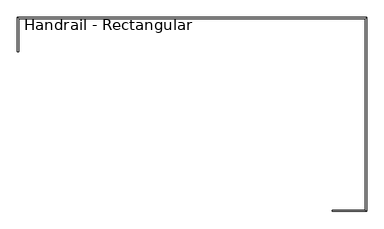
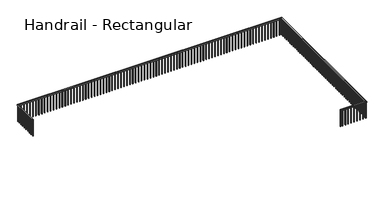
"""IFC4 building model written with IfcOpenShell, lengths in millimetres: railing geometry, Handrail - Rectangular."""

from ifc_helpers import new_model, si_unit, frame, origin, place, context, project, spatial, polyline, outline, extrude, faceted_brep, source, transform, mapped, element, save


def handrail_rectangular_d66f6947(model_context):
    return source(origin(), model_context, "Body", "SolidModel", [
        faceted_brep([(-11342.6589563, 10624.0316867, 3962.4), (-11393.4589563, 10624.0316867, 3962.4), (-11393.4589563, 10624.0316867, 3911.6), (-11342.6589563, 10624.0316867, 3911.6), (-11342.6589563, 11919.4316867, 3962.4), (-11393.4589563, 11970.2316867, 3962.4), (-11393.4589563, 11970.2316867, 3911.6), (-11342.6589563, 11919.4316867, 3911.6), (2271.7410437, 11919.4316867, 3962.4), (2322.5410437, 11970.2316867, 3962.4), (2322.5410437, 11970.2316867, 3911.6), (2271.7410437, 11919.4316867, 3911.6), (2271.7410437, 4401.0316867, 3962.4), (2322.5410437, 4350.2316867, 3962.4), (2322.5410437, 4350.2316867, 3911.6), (2271.7410437, 4401.0316867, 3911.6), (976.3410437, 4401.0316867, 3962.4), (976.3410437, 4401.0316867, 3911.6), (976.3410437, 4350.2316867, 3911.6), (976.3410437, 4350.2316867, 3962.4)], [[[0, 1, 2, 3]], [[1, 0, 4, 5]], [[2, 1, 5, 6]], [[3, 2, 6, 7]], [[0, 3, 7, 4]], [[5, 4, 8, 9]], [[6, 5, 9, 10]], [[7, 6, 10, 11]], [[4, 7, 11, 8]], [[9, 8, 12, 13]], [[10, 9, 13, 14]], [[11, 10, 14, 15]], [[8, 11, 15, 12]], [[16, 17, 18, 19]], [[13, 12, 16, 19]], [[14, 13, 19, 18]], [[15, 14, 18, 17]], [[12, 15, 17, 16]]]),
        extrude(outline(polyline([(1087.4660437, 4385.1566867), (1087.4660437, 4366.1066867), (1068.4160437, 4366.1066867), (1068.4160437, 4385.1566867), (1087.4660437, 4385.1566867)])), frame((0.0, 0.0, 3048.0), z_axis=(0.0, 0.0, 1.0), x_axis=(1.0, 0.0, 0.0)), (0.0, 0.0, 1.0), 863.6),
        extrude(outline(polyline([(1239.8660437, 4385.1566867), (1239.8660437, 4366.1066867), (1220.8160437, 4366.1066867), (1220.8160437, 4385.1566867), (1239.8660437, 4385.1566867)])), frame((0.0, 0.0, 3048.0), z_axis=(0.0, 0.0, 1.0), x_axis=(1.0, 0.0, 0.0)), (0.0, 0.0, 1.0), 863.6),
        extrude(outline(polyline([(1392.2660437, 4385.1566867), (1392.2660437, 4366.1066867), (1373.2160437, 4366.1066867), (1373.2160437, 4385.1566867), (1392.2660437, 4385.1566867)])), frame((0.0, 0.0, 3048.0), z_axis=(0.0, 0.0, 1.0), x_axis=(1.0, 0.0, 0.0)), (0.0, 0.0, 1.0), 863.6),
        extrude(outline(polyline([(1544.6660437, 4385.1566867), (1544.6660437, 4366.1066867), (1525.6160437, 4366.1066867), (1525.6160437, 4385.1566867), (1544.6660437, 4385.1566867)])), frame((0.0, 0.0, 3048.0), z_axis=(0.0, 0.0, 1.0), x_axis=(1.0, 0.0, 0.0)), (0.0, 0.0, 1.0), 863.6),
        extrude(outline(polyline([(1697.0660437, 4385.1566867), (1697.0660437, 4366.1066867), (1678.0160437, 4366.1066867), (1678.0160437, 4385.1566867), (1697.0660437, 4385.1566867)])), frame((0.0, 0.0, 3048.0), z_axis=(0.0, 0.0, 1.0), x_axis=(1.0, 0.0, 0.0)), (0.0, 0.0, 1.0), 863.6),
        extrude(outline(polyline([(1849.4660437, 4385.1566867), (1849.4660437, 4366.1066867), (1830.4160437, 4366.1066867), (1830.4160437, 4385.1566867), (1849.4660437, 4385.1566867)])), frame((0.0, 0.0, 3048.0), z_axis=(0.0, 0.0, 1.0), x_axis=(1.0, 0.0, 0.0)), (0.0, 0.0, 1.0), 863.6),
        extrude(outline(polyline([(2001.8660437, 4385.1566867), (2001.8660437, 4366.1066867), (1982.8160437, 4366.1066867), (1982.8160437, 4385.1566867), (2001.8660437, 4385.1566867)])), frame((0.0, 0.0, 3048.0), z_axis=(0.0, 0.0, 1.0), x_axis=(1.0, 0.0, 0.0)), (0.0, 0.0, 1.0), 863.6),
        extrude(outline(polyline([(2154.2660437, 4385.1566867), (2154.2660437, 4366.1066867), (2135.2160437, 4366.1066867), (2135.2160437, 4385.1566867), (2154.2660437, 4385.1566867)])), frame((0.0, 0.0, 3048.0), z_axis=(0.0, 0.0, 1.0), x_axis=(1.0, 0.0, 0.0)), (0.0, 0.0, 1.0), 863.6),
        extrude(outline(polyline([(2287.6160437, 4486.7566867), (2306.6660437, 4486.7566867), (2306.6660437, 4467.7066867), (2287.6160437, 4467.7066867), (2287.6160437, 4486.7566867)])), frame((0.0, 0.0, 3048.0), z_axis=(0.0, 0.0, 1.0), x_axis=(1.0, 0.0, 0.0)), (0.0, 0.0, 1.0), 863.6),
        extrude(outline(polyline([(2287.6160437, 4639.1566867), (2306.6660437, 4639.1566867), (2306.6660437, 4620.1066867), (2287.6160437, 4620.1066867), (2287.6160437, 4639.1566867)])), frame((0.0, 0.0, 3048.0), z_axis=(0.0, 0.0, 1.0), x_axis=(1.0, 0.0, 0.0)), (0.0, 0.0, 1.0), 863.6),
        extrude(outline(polyline([(2287.6160437, 4791.5566867), (2306.6660437, 4791.5566867), (2306.6660437, 4772.5066867), (2287.6160437, 4772.5066867), (2287.6160437, 4791.5566867)])), frame((0.0, 0.0, 3048.0), z_axis=(0.0, 0.0, 1.0), x_axis=(1.0, 0.0, 0.0)), (0.0, 0.0, 1.0), 863.6),
        extrude(outline(polyline([(2287.6160437, 4943.9566867), (2306.6660437, 4943.9566867), (2306.6660437, 4924.9066867), (2287.6160437, 4924.9066867), (2287.6160437, 4943.9566867)])), frame((0.0, 0.0, 3048.0), z_axis=(0.0, 0.0, 1.0), x_axis=(1.0, 0.0, 0.0)), (0.0, 0.0, 1.0), 863.6),
        extrude(outline(polyline([(2287.6160437, 5096.3566867), (2306.6660437, 5096.3566867), (2306.6660437, 5077.3066867), (2287.6160437, 5077.3066867), (2287.6160437, 5096.3566867)])), frame((0.0, 0.0, 3048.0), z_axis=(0.0, 0.0, 1.0), x_axis=(1.0, 0.0, 0.0)), (0.0, 0.0, 1.0), 863.6),
        extrude(outline(polyline([(2287.6160437, 5248.7566867), (2306.6660437, 5248.7566867), (2306.6660437, 5229.7066867), (2287.6160437, 5229.7066867), (2287.6160437, 5248.7566867)])), frame((0.0, 0.0, 3048.0), z_axis=(0.0, 0.0, 1.0), x_axis=(1.0, 0.0, 0.0)), (0.0, 0.0, 1.0), 863.6),
        extrude(outline(polyline([(2287.6160437, 5401.1566867), (2306.6660437, 5401.1566867), (2306.6660437, 5382.1066867), (2287.6160437, 5382.1066867), (2287.6160437, 5401.1566867)])), frame((0.0, 0.0, 3048.0), z_axis=(0.0, 0.0, 1.0), x_axis=(1.0, 0.0, 0.0)), (0.0, 0.0, 1.0), 863.6),
        extrude(outline(polyline([(2287.6160437, 5553.5566867), (2306.6660437, 5553.5566867), (2306.6660437, 5534.5066867), (2287.6160437, 5534.5066867), (2287.6160437, 5553.5566867)])), frame((0.0, 0.0, 3048.0), z_axis=(0.0, 0.0, 1.0), x_axis=(1.0, 0.0, 0.0)), (0.0, 0.0, 1.0), 863.6),
        extrude(outline(polyline([(2287.6160437, 5705.9566867), (2306.6660437, 5705.9566867), (2306.6660437, 5686.9066867), (2287.6160437, 5686.9066867), (2287.6160437, 5705.9566867)])), frame((0.0, 0.0, 3048.0), z_axis=(0.0, 0.0, 1.0), x_axis=(1.0, 0.0, 0.0)), (0.0, 0.0, 1.0), 863.6),
        extrude(outline(polyline([(2287.6160437, 5858.3566867), (2306.6660437, 5858.3566867), (2306.6660437, 5839.3066867), (2287.6160437, 5839.3066867), (2287.6160437, 5858.3566867)])), frame((0.0, 0.0, 3048.0), z_axis=(0.0, 0.0, 1.0), x_axis=(1.0, 0.0, 0.0)), (0.0, 0.0, 1.0), 863.6),
        extrude(outline(polyline([(2287.6160437, 6010.7566867), (2306.6660437, 6010.7566867), (2306.6660437, 5991.7066867), (2287.6160437, 5991.7066867), (2287.6160437, 6010.7566867)])), frame((0.0, 0.0, 3048.0), z_axis=(0.0, 0.0, 1.0), x_axis=(1.0, 0.0, 0.0)), (0.0, 0.0, 1.0), 863.6),
        extrude(outline(polyline([(2287.6160437, 6163.1566867), (2306.6660437, 6163.1566867), (2306.6660437, 6144.1066867), (2287.6160437, 6144.1066867), (2287.6160437, 6163.1566867)])), frame((0.0, 0.0, 3048.0), z_axis=(0.0, 0.0, 1.0), x_axis=(1.0, 0.0, 0.0)), (0.0, 0.0, 1.0), 863.6),
        extrude(outline(polyline([(2287.6160437, 6315.5566867), (2306.6660437, 6315.5566867), (2306.6660437, 6296.5066867), (2287.6160437, 6296.5066867), (2287.6160437, 6315.5566867)])), frame((0.0, 0.0, 3048.0), z_axis=(0.0, 0.0, 1.0), x_axis=(1.0, 0.0, 0.0)), (0.0, 0.0, 1.0), 863.6),
        extrude(outline(polyline([(2287.6160437, 6467.9566867), (2306.6660437, 6467.9566867), (2306.6660437, 6448.9066867), (2287.6160437, 6448.9066867), (2287.6160437, 6467.9566867)])), frame((0.0, 0.0, 3048.0), z_axis=(0.0, 0.0, 1.0), x_axis=(1.0, 0.0, 0.0)), (0.0, 0.0, 1.0), 863.6),
        extrude(outline(polyline([(2287.6160437, 6620.3566867), (2306.6660437, 6620.3566867), (2306.6660437, 6601.3066867), (2287.6160437, 6601.3066867), (2287.6160437, 6620.3566867)])), frame((0.0, 0.0, 3048.0), z_axis=(0.0, 0.0, 1.0), x_axis=(1.0, 0.0, 0.0)), (0.0, 0.0, 1.0), 863.6),
        extrude(outline(polyline([(2287.6160437, 6772.7566867), (2306.6660437, 6772.7566867), (2306.6660437, 6753.7066867), (2287.6160437, 6753.7066867), (2287.6160437, 6772.7566867)])), frame((0.0, 0.0, 3048.0), z_axis=(0.0, 0.0, 1.0), x_axis=(1.0, 0.0, 0.0)), (0.0, 0.0, 1.0), 863.6),
        extrude(outline(polyline([(2287.6160437, 6925.1566867), (2306.6660437, 6925.1566867), (2306.6660437, 6906.1066867), (2287.6160437, 6906.1066867), (2287.6160437, 6925.1566867)])), frame((0.0, 0.0, 3048.0), z_axis=(0.0, 0.0, 1.0), x_axis=(1.0, 0.0, 0.0)), (0.0, 0.0, 1.0), 863.6),
        extrude(outline(polyline([(2287.6160437, 7077.5566867), (2306.6660437, 7077.5566867), (2306.6660437, 7058.5066867), (2287.6160437, 7058.5066867), (2287.6160437, 7077.5566867)])), frame((0.0, 0.0, 3048.0), z_axis=(0.0, 0.0, 1.0), x_axis=(1.0, 0.0, 0.0)), (0.0, 0.0, 1.0), 863.6),
        extrude(outline(polyline([(2287.6160437, 7229.9566867), (2306.6660437, 7229.9566867), (2306.6660437, 7210.9066867), (2287.6160437, 7210.9066867), (2287.6160437, 7229.9566867)])), frame((0.0, 0.0, 3048.0), z_axis=(0.0, 0.0, 1.0), x_axis=(1.0, 0.0, 0.0)), (0.0, 0.0, 1.0), 863.6),
        extrude(outline(polyline([(2287.6160437, 7382.3566867), (2306.6660437, 7382.3566867), (2306.6660437, 7363.3066867), (2287.6160437, 7363.3066867), (2287.6160437, 7382.3566867)])), frame((0.0, 0.0, 3048.0), z_axis=(0.0, 0.0, 1.0), x_axis=(1.0, 0.0, 0.0)), (0.0, 0.0, 1.0), 863.6),
        extrude(outline(polyline([(2287.6160437, 7534.7566867), (2306.6660437, 7534.7566867), (2306.6660437, 7515.7066867), (2287.6160437, 7515.7066867), (2287.6160437, 7534.7566867)])), frame((0.0, 0.0, 3048.0), z_axis=(0.0, 0.0, 1.0), x_axis=(1.0, 0.0, 0.0)), (0.0, 0.0, 1.0), 863.6),
        extrude(outline(polyline([(2287.6160437, 7687.1566867), (2306.6660437, 7687.1566867), (2306.6660437, 7668.1066867), (2287.6160437, 7668.1066867), (2287.6160437, 7687.1566867)])), frame((0.0, 0.0, 3048.0), z_axis=(0.0, 0.0, 1.0), x_axis=(1.0, 0.0, 0.0)), (0.0, 0.0, 1.0), 863.6),
        extrude(outline(polyline([(2287.6160437, 7839.5566867), (2306.6660437, 7839.5566867), (2306.6660437, 7820.5066867), (2287.6160437, 7820.5066867), (2287.6160437, 7839.5566867)])), frame((0.0, 0.0, 3048.0), z_axis=(0.0, 0.0, 1.0), x_axis=(1.0, 0.0, 0.0)), (0.0, 0.0, 1.0), 863.6),
        extrude(outline(polyline([(2287.6160437, 7991.9566867), (2306.6660437, 7991.9566867), (2306.6660437, 7972.9066867), (2287.6160437, 7972.9066867), (2287.6160437, 7991.9566867)])), frame((0.0, 0.0, 3048.0), z_axis=(0.0, 0.0, 1.0), x_axis=(1.0, 0.0, 0.0)), (0.0, 0.0, 1.0), 863.6),
        extrude(outline(polyline([(2287.6160437, 8144.3566867), (2306.6660437, 8144.3566867), (2306.6660437, 8125.3066867), (2287.6160437, 8125.3066867), (2287.6160437, 8144.3566867)])), frame((0.0, 0.0, 3048.0), z_axis=(0.0, 0.0, 1.0), x_axis=(1.0, 0.0, 0.0)), (0.0, 0.0, 1.0), 863.6),
        extrude(outline(polyline([(2287.6160437, 8296.7566867), (2306.6660437, 8296.7566867), (2306.6660437, 8277.7066867), (2287.6160437, 8277.7066867), (2287.6160437, 8296.7566867)])), frame((0.0, 0.0, 3048.0), z_axis=(0.0, 0.0, 1.0), x_axis=(1.0, 0.0, 0.0)), (0.0, 0.0, 1.0), 863.6),
        extrude(outline(polyline([(2287.6160437, 8449.1566867), (2306.6660437, 8449.1566867), (2306.6660437, 8430.1066867), (2287.6160437, 8430.1066867), (2287.6160437, 8449.1566867)])), frame((0.0, 0.0, 3048.0), z_axis=(0.0, 0.0, 1.0), x_axis=(1.0, 0.0, 0.0)), (0.0, 0.0, 1.0), 863.6),
        extrude(outline(polyline([(2287.6160437, 8601.5566867), (2306.6660437, 8601.5566867), (2306.6660437, 8582.5066867), (2287.6160437, 8582.5066867), (2287.6160437, 8601.5566867)])), frame((0.0, 0.0, 3048.0), z_axis=(0.0, 0.0, 1.0), x_axis=(1.0, 0.0, 0.0)), (0.0, 0.0, 1.0), 863.6),
        extrude(outline(polyline([(2287.6160437, 8753.9566867), (2306.6660437, 8753.9566867), (2306.6660437, 8734.9066867), (2287.6160437, 8734.9066867), (2287.6160437, 8753.9566867)])), frame((0.0, 0.0, 3048.0), z_axis=(0.0, 0.0, 1.0), x_axis=(1.0, 0.0, 0.0)), (0.0, 0.0, 1.0), 863.6),
        extrude(outline(polyline([(2287.6160437, 8906.3566867), (2306.6660437, 8906.3566867), (2306.6660437, 8887.3066867), (2287.6160437, 8887.3066867), (2287.6160437, 8906.3566867)])), frame((0.0, 0.0, 3048.0), z_axis=(0.0, 0.0, 1.0), x_axis=(1.0, 0.0, 0.0)), (0.0, 0.0, 1.0), 863.6),
        extrude(outline(polyline([(2287.6160437, 9058.7566867), (2306.6660437, 9058.7566867), (2306.6660437, 9039.7066867), (2287.6160437, 9039.7066867), (2287.6160437, 9058.7566867)])), frame((0.0, 0.0, 3048.0), z_axis=(0.0, 0.0, 1.0), x_axis=(1.0, 0.0, 0.0)), (0.0, 0.0, 1.0), 863.6),
        extrude(outline(polyline([(2287.6160437, 9211.1566867), (2306.6660437, 9211.1566867), (2306.6660437, 9192.1066867), (2287.6160437, 9192.1066867), (2287.6160437, 9211.1566867)])), frame((0.0, 0.0, 3048.0), z_axis=(0.0, 0.0, 1.0), x_axis=(1.0, 0.0, 0.0)), (0.0, 0.0, 1.0), 863.6),
        extrude(outline(polyline([(2287.6160437, 9363.5566867), (2306.6660437, 9363.5566867), (2306.6660437, 9344.5066867), (2287.6160437, 9344.5066867), (2287.6160437, 9363.5566867)])), frame((0.0, 0.0, 3048.0), z_axis=(0.0, 0.0, 1.0), x_axis=(1.0, 0.0, 0.0)), (0.0, 0.0, 1.0), 863.6),
        extrude(outline(polyline([(2287.6160437, 9515.9566867), (2306.6660437, 9515.9566867), (2306.6660437, 9496.9066867), (2287.6160437, 9496.9066867), (2287.6160437, 9515.9566867)])), frame((0.0, 0.0, 3048.0), z_axis=(0.0, 0.0, 1.0), x_axis=(1.0, 0.0, 0.0)), (0.0, 0.0, 1.0), 863.6),
        extrude(outline(polyline([(2287.6160437, 9668.3566867), (2306.6660437, 9668.3566867), (2306.6660437, 9649.3066867), (2287.6160437, 9649.3066867), (2287.6160437, 9668.3566867)])), frame((0.0, 0.0, 3048.0), z_axis=(0.0, 0.0, 1.0), x_axis=(1.0, 0.0, 0.0)), (0.0, 0.0, 1.0), 863.6),
        extrude(outline(polyline([(2287.6160437, 9820.7566867), (2306.6660437, 9820.7566867), (2306.6660437, 9801.7066867), (2287.6160437, 9801.7066867), (2287.6160437, 9820.7566867)])), frame((0.0, 0.0, 3048.0), z_axis=(0.0, 0.0, 1.0), x_axis=(1.0, 0.0, 0.0)), (0.0, 0.0, 1.0), 863.6),
        extrude(outline(polyline([(2287.6160437, 9973.1566867), (2306.6660437, 9973.1566867), (2306.6660437, 9954.1066867), (2287.6160437, 9954.1066867), (2287.6160437, 9973.1566867)])), frame((0.0, 0.0, 3048.0), z_axis=(0.0, 0.0, 1.0), x_axis=(1.0, 0.0, 0.0)), (0.0, 0.0, 1.0), 863.6),
        extrude(outline(polyline([(2287.6160437, 10125.5566867), (2306.6660437, 10125.5566867), (2306.6660437, 10106.5066867), (2287.6160437, 10106.5066867), (2287.6160437, 10125.5566867)])), frame((0.0, 0.0, 3048.0), z_axis=(0.0, 0.0, 1.0), x_axis=(1.0, 0.0, 0.0)), (0.0, 0.0, 1.0), 863.6),
        extrude(outline(polyline([(2287.6160437, 10277.9566867), (2306.6660437, 10277.9566867), (2306.6660437, 10258.9066867), (2287.6160437, 10258.9066867), (2287.6160437, 10277.9566867)])), frame((0.0, 0.0, 3048.0), z_axis=(0.0, 0.0, 1.0), x_axis=(1.0, 0.0, 0.0)), (0.0, 0.0, 1.0), 863.6),
        extrude(outline(polyline([(2287.6160437, 10430.3566867), (2306.6660437, 10430.3566867), (2306.6660437, 10411.3066867), (2287.6160437, 10411.3066867), (2287.6160437, 10430.3566867)])), frame((0.0, 0.0, 3048.0), z_axis=(0.0, 0.0, 1.0), x_axis=(1.0, 0.0, 0.0)), (0.0, 0.0, 1.0), 863.6),
        extrude(outline(polyline([(2287.6160437, 10582.7566867), (2306.6660437, 10582.7566867), (2306.6660437, 10563.7066867), (2287.6160437, 10563.7066867), (2287.6160437, 10582.7566867)])), frame((0.0, 0.0, 3048.0), z_axis=(0.0, 0.0, 1.0), x_axis=(1.0, 0.0, 0.0)), (0.0, 0.0, 1.0), 863.6),
        extrude(outline(polyline([(2287.6160437, 10735.1566867), (2306.6660437, 10735.1566867), (2306.6660437, 10716.1066867), (2287.6160437, 10716.1066867), (2287.6160437, 10735.1566867)])), frame((0.0, 0.0, 3048.0), z_axis=(0.0, 0.0, 1.0), x_axis=(1.0, 0.0, 0.0)), (0.0, 0.0, 1.0), 863.6),
        extrude(outline(polyline([(2287.6160437, 10887.5566867), (2306.6660437, 10887.5566867), (2306.6660437, 10868.5066867), (2287.6160437, 10868.5066867), (2287.6160437, 10887.5566867)])), frame((0.0, 0.0, 3048.0), z_axis=(0.0, 0.0, 1.0), x_axis=(1.0, 0.0, 0.0)), (0.0, 0.0, 1.0), 863.6),
        extrude(outline(polyline([(2287.6160437, 11039.9566867), (2306.6660437, 11039.9566867), (2306.6660437, 11020.9066867), (2287.6160437, 11020.9066867), (2287.6160437, 11039.9566867)])), frame((0.0, 0.0, 3048.0), z_axis=(0.0, 0.0, 1.0), x_axis=(1.0, 0.0, 0.0)), (0.0, 0.0, 1.0), 863.6),
        extrude(outline(polyline([(2287.6160437, 11192.3566867), (2306.6660437, 11192.3566867), (2306.6660437, 11173.3066867), (2287.6160437, 11173.3066867), (2287.6160437, 11192.3566867)])), frame((0.0, 0.0, 3048.0), z_axis=(0.0, 0.0, 1.0), x_axis=(1.0, 0.0, 0.0)), (0.0, 0.0, 1.0), 863.6),
        extrude(outline(polyline([(2287.6160437, 11344.7566867), (2306.6660437, 11344.7566867), (2306.6660437, 11325.7066867), (2287.6160437, 11325.7066867), (2287.6160437, 11344.7566867)])), frame((0.0, 0.0, 3048.0), z_axis=(0.0, 0.0, 1.0), x_axis=(1.0, 0.0, 0.0)), (0.0, 0.0, 1.0), 863.6),
        extrude(outline(polyline([(2287.6160437, 11497.1566867), (2306.6660437, 11497.1566867), (2306.6660437, 11478.1066867), (2287.6160437, 11478.1066867), (2287.6160437, 11497.1566867)])), frame((0.0, 0.0, 3048.0), z_axis=(0.0, 0.0, 1.0), x_axis=(1.0, 0.0, 0.0)), (0.0, 0.0, 1.0), 863.6),
        extrude(outline(polyline([(2287.6160437, 11649.5566867), (2306.6660437, 11649.5566867), (2306.6660437, 11630.5066867), (2287.6160437, 11630.5066867), (2287.6160437, 11649.5566867)])), frame((0.0, 0.0, 3048.0), z_axis=(0.0, 0.0, 1.0), x_axis=(1.0, 0.0, 0.0)), (0.0, 0.0, 1.0), 863.6),
        extrude(outline(polyline([(2287.6160437, 11801.9566867), (2306.6660437, 11801.9566867), (2306.6660437, 11782.9066867), (2287.6160437, 11782.9066867), (2287.6160437, 11801.9566867)])), frame((0.0, 0.0, 3048.0), z_axis=(0.0, 0.0, 1.0), x_axis=(1.0, 0.0, 0.0)), (0.0, 0.0, 1.0), 863.6),
        extrude(outline(polyline([(2186.0160437, 11935.3066867), (2186.0160437, 11954.3566867), (2205.0660437, 11954.3566867), (2205.0660437, 11935.3066867), (2186.0160437, 11935.3066867)])), frame((0.0, 0.0, 3048.0), z_axis=(0.0, 0.0, 1.0), x_axis=(1.0, 0.0, 0.0)), (0.0, 0.0, 1.0), 863.6),
        extrude(outline(polyline([(2033.6160437, 11935.3066867), (2033.6160437, 11954.3566867), (2052.6660437, 11954.3566867), (2052.6660437, 11935.3066867), (2033.6160437, 11935.3066867)])), frame((0.0, 0.0, 3048.0), z_axis=(0.0, 0.0, 1.0), x_axis=(1.0, 0.0, 0.0)), (0.0, 0.0, 1.0), 863.6),
        extrude(outline(polyline([(1881.2160437, 11935.3066867), (1881.2160437, 11954.3566867), (1900.2660437, 11954.3566867), (1900.2660437, 11935.3066867), (1881.2160437, 11935.3066867)])), frame((0.0, 0.0, 3048.0), z_axis=(0.0, 0.0, 1.0), x_axis=(1.0, 0.0, 0.0)), (0.0, 0.0, 1.0), 863.6),
        extrude(outline(polyline([(1728.8160437, 11935.3066867), (1728.8160437, 11954.3566867), (1747.8660437, 11954.3566867), (1747.8660437, 11935.3066867), (1728.8160437, 11935.3066867)])), frame((0.0, 0.0, 3048.0), z_axis=(0.0, 0.0, 1.0), x_axis=(1.0, 0.0, 0.0)), (0.0, 0.0, 1.0), 863.6),
        extrude(outline(polyline([(1576.4160437, 11935.3066867), (1576.4160437, 11954.3566867), (1595.4660437, 11954.3566867), (1595.4660437, 11935.3066867), (1576.4160437, 11935.3066867)])), frame((0.0, 0.0, 3048.0), z_axis=(0.0, 0.0, 1.0), x_axis=(1.0, 0.0, 0.0)), (0.0, 0.0, 1.0), 863.6),
        extrude(outline(polyline([(1424.0160437, 11935.3066867), (1424.0160437, 11954.3566867), (1443.0660437, 11954.3566867), (1443.0660437, 11935.3066867), (1424.0160437, 11935.3066867)])), frame((0.0, 0.0, 3048.0), z_axis=(0.0, 0.0, 1.0), x_axis=(1.0, 0.0, 0.0)), (0.0, 0.0, 1.0), 863.6),
        extrude(outline(polyline([(1271.6160437, 11935.3066867), (1271.6160437, 11954.3566867), (1290.6660437, 11954.3566867), (1290.6660437, 11935.3066867), (1271.6160437, 11935.3066867)])), frame((0.0, 0.0, 3048.0), z_axis=(0.0, 0.0, 1.0), x_axis=(1.0, 0.0, 0.0)), (0.0, 0.0, 1.0), 863.6),
        extrude(outline(polyline([(1119.2160437, 11935.3066867), (1119.2160437, 11954.3566867), (1138.2660437, 11954.3566867), (1138.2660437, 11935.3066867), (1119.2160437, 11935.3066867)])), frame((0.0, 0.0, 3048.0), z_axis=(0.0, 0.0, 1.0), x_axis=(1.0, 0.0, 0.0)), (0.0, 0.0, 1.0), 863.6),
        extrude(outline(polyline([(966.8160437, 11935.3066867), (966.8160437, 11954.3566867), (985.8660437, 11954.3566867), (985.8660437, 11935.3066867), (966.8160437, 11935.3066867)])), frame((0.0, 0.0, 3048.0), z_axis=(0.0, 0.0, 1.0), x_axis=(1.0, 0.0, 0.0)), (0.0, 0.0, 1.0), 863.6),
        extrude(outline(polyline([(814.4160437, 11935.3066867), (814.4160437, 11954.3566867), (833.4660437, 11954.3566867), (833.4660437, 11935.3066867), (814.4160437, 11935.3066867)])), frame((0.0, 0.0, 3048.0), z_axis=(0.0, 0.0, 1.0), x_axis=(1.0, 0.0, 0.0)), (0.0, 0.0, 1.0), 863.6),
        extrude(outline(polyline([(662.0160437, 11935.3066867), (662.0160437, 11954.3566867), (681.0660437, 11954.3566867), (681.0660437, 11935.3066867), (662.0160437, 11935.3066867)])), frame((0.0, 0.0, 3048.0), z_axis=(0.0, 0.0, 1.0), x_axis=(1.0, 0.0, 0.0)), (0.0, 0.0, 1.0), 863.6),
        extrude(outline(polyline([(509.6160437, 11935.3066867), (509.6160437, 11954.3566867), (528.6660437, 11954.3566867), (528.6660437, 11935.3066867), (509.6160437, 11935.3066867)])), frame((0.0, 0.0, 3048.0), z_axis=(0.0, 0.0, 1.0), x_axis=(1.0, 0.0, 0.0)), (0.0, 0.0, 1.0), 863.6),
        extrude(outline(polyline([(357.2160437, 11935.3066867), (357.2160437, 11954.3566867), (376.2660437, 11954.3566867), (376.2660437, 11935.3066867), (357.2160437, 11935.3066867)])), frame((0.0, 0.0, 3048.0), z_axis=(0.0, 0.0, 1.0), x_axis=(1.0, 0.0, 0.0)), (0.0, 0.0, 1.0), 863.6),
        extrude(outline(polyline([(204.8160437, 11935.3066867), (204.8160437, 11954.3566867), (223.8660437, 11954.3566867), (223.8660437, 11935.3066867), (204.8160437, 11935.3066867)])), frame((0.0, 0.0, 3048.0), z_axis=(0.0, 0.0, 1.0), x_axis=(1.0, 0.0, 0.0)), (0.0, 0.0, 1.0), 863.6),
        extrude(outline(polyline([(52.4160437, 11935.3066867), (52.4160437, 11954.3566867), (71.4660437, 11954.3566867), (71.4660437, 11935.3066867), (52.4160437, 11935.3066867)])), frame((0.0, 0.0, 3048.0), z_axis=(0.0, 0.0, 1.0), x_axis=(1.0, 0.0, 0.0)), (0.0, 0.0, 1.0), 863.6),
        extrude(outline(polyline([(-99.9839563, 11935.3066867), (-99.9839563, 11954.3566867), (-80.9339563, 11954.3566867), (-80.9339563, 11935.3066867), (-99.9839563, 11935.3066867)])), frame((0.0, 0.0, 3048.0), z_axis=(0.0, 0.0, 1.0), x_axis=(1.0, 0.0, 0.0)), (0.0, 0.0, 1.0), 863.6),
        extrude(outline(polyline([(-252.3839563, 11935.3066867), (-252.3839563, 11954.3566867), (-233.3339563, 11954.3566867), (-233.3339563, 11935.3066867), (-252.3839563, 11935.3066867)])), frame((0.0, 0.0, 3048.0), z_axis=(0.0, 0.0, 1.0), x_axis=(1.0, 0.0, 0.0)), (0.0, 0.0, 1.0), 863.6),
        extrude(outline(polyline([(-404.7839563, 11935.3066867), (-404.7839563, 11954.3566867), (-385.7339563, 11954.3566867), (-385.7339563, 11935.3066867), (-404.7839563, 11935.3066867)])), frame((0.0, 0.0, 3048.0), z_axis=(0.0, 0.0, 1.0), x_axis=(1.0, 0.0, 0.0)), (0.0, 0.0, 1.0), 863.6),
        extrude(outline(polyline([(-557.1839563, 11935.3066867), (-557.1839563, 11954.3566867), (-538.1339563, 11954.3566867), (-538.1339563, 11935.3066867), (-557.1839563, 11935.3066867)])), frame((0.0, 0.0, 3048.0), z_axis=(0.0, 0.0, 1.0), x_axis=(1.0, 0.0, 0.0)), (0.0, 0.0, 1.0), 863.6),
        extrude(outline(polyline([(-709.5839563, 11935.3066867), (-709.5839563, 11954.3566867), (-690.5339563, 11954.3566867), (-690.5339563, 11935.3066867), (-709.5839563, 11935.3066867)])), frame((0.0, 0.0, 3048.0), z_axis=(0.0, 0.0, 1.0), x_axis=(1.0, 0.0, 0.0)), (0.0, 0.0, 1.0), 863.6),
        extrude(outline(polyline([(-861.9839563, 11935.3066867), (-861.9839563, 11954.3566867), (-842.9339563, 11954.3566867), (-842.9339563, 11935.3066867), (-861.9839563, 11935.3066867)])), frame((0.0, 0.0, 3048.0), z_axis=(0.0, 0.0, 1.0), x_axis=(1.0, 0.0, 0.0)), (0.0, 0.0, 1.0), 863.6),
        extrude(outline(polyline([(-1014.3839563, 11935.3066867), (-1014.3839563, 11954.3566867), (-995.3339563, 11954.3566867), (-995.3339563, 11935.3066867), (-1014.3839563, 11935.3066867)])), frame((0.0, 0.0, 3048.0), z_axis=(0.0, 0.0, 1.0), x_axis=(1.0, 0.0, 0.0)), (0.0, 0.0, 1.0), 863.6),
        extrude(outline(polyline([(-1166.7839563, 11935.3066867), (-1166.7839563, 11954.3566867), (-1147.7339563, 11954.3566867), (-1147.7339563, 11935.3066867), (-1166.7839563, 11935.3066867)])), frame((0.0, 0.0, 3048.0), z_axis=(0.0, 0.0, 1.0), x_axis=(1.0, 0.0, 0.0)), (0.0, 0.0, 1.0), 863.6),
        extrude(outline(polyline([(-1319.1839563, 11935.3066867), (-1319.1839563, 11954.3566867), (-1300.1339563, 11954.3566867), (-1300.1339563, 11935.3066867), (-1319.1839563, 11935.3066867)])), frame((0.0, 0.0, 3048.0), z_axis=(0.0, 0.0, 1.0), x_axis=(1.0, 0.0, 0.0)), (0.0, 0.0, 1.0), 863.6),
        extrude(outline(polyline([(-1471.5839563, 11935.3066867), (-1471.5839563, 11954.3566867), (-1452.5339563, 11954.3566867), (-1452.5339563, 11935.3066867), (-1471.5839563, 11935.3066867)])), frame((0.0, 0.0, 3048.0), z_axis=(0.0, 0.0, 1.0), x_axis=(1.0, 0.0, 0.0)), (0.0, 0.0, 1.0), 863.6),
        extrude(outline(polyline([(-1623.9839563, 11935.3066867), (-1623.9839563, 11954.3566867), (-1604.9339563, 11954.3566867), (-1604.9339563, 11935.3066867), (-1623.9839563, 11935.3066867)])), frame((0.0, 0.0, 3048.0), z_axis=(0.0, 0.0, 1.0), x_axis=(1.0, 0.0, 0.0)), (0.0, 0.0, 1.0), 863.6),
        extrude(outline(polyline([(-1776.3839563, 11935.3066867), (-1776.3839563, 11954.3566867), (-1757.3339563, 11954.3566867), (-1757.3339563, 11935.3066867), (-1776.3839563, 11935.3066867)])), frame((0.0, 0.0, 3048.0), z_axis=(0.0, 0.0, 1.0), x_axis=(1.0, 0.0, 0.0)), (0.0, 0.0, 1.0), 863.6),
        extrude(outline(polyline([(-1928.7839563, 11935.3066867), (-1928.7839563, 11954.3566867), (-1909.7339563, 11954.3566867), (-1909.7339563, 11935.3066867), (-1928.7839563, 11935.3066867)])), frame((0.0, 0.0, 3048.0), z_axis=(0.0, 0.0, 1.0), x_axis=(1.0, 0.0, 0.0)), (0.0, 0.0, 1.0), 863.6),
        extrude(outline(polyline([(-2081.1839563, 11935.3066867), (-2081.1839563, 11954.3566867), (-2062.1339563, 11954.3566867), (-2062.1339563, 11935.3066867), (-2081.1839563, 11935.3066867)])), frame((0.0, 0.0, 3048.0), z_axis=(0.0, 0.0, 1.0), x_axis=(1.0, 0.0, 0.0)), (0.0, 0.0, 1.0), 863.6),
        extrude(outline(polyline([(-2233.5839563, 11935.3066867), (-2233.5839563, 11954.3566867), (-2214.5339563, 11954.3566867), (-2214.5339563, 11935.3066867), (-2233.5839563, 11935.3066867)])), frame((0.0, 0.0, 3048.0), z_axis=(0.0, 0.0, 1.0), x_axis=(1.0, 0.0, 0.0)), (0.0, 0.0, 1.0), 863.6),
        extrude(outline(polyline([(-2385.9839563, 11935.3066867), (-2385.9839563, 11954.3566867), (-2366.9339563, 11954.3566867), (-2366.9339563, 11935.3066867), (-2385.9839563, 11935.3066867)])), frame((0.0, 0.0, 3048.0), z_axis=(0.0, 0.0, 1.0), x_axis=(1.0, 0.0, 0.0)), (0.0, 0.0, 1.0), 863.6),
        extrude(outline(polyline([(-2538.3839563, 11935.3066867), (-2538.3839563, 11954.3566867), (-2519.3339563, 11954.3566867), (-2519.3339563, 11935.3066867), (-2538.3839563, 11935.3066867)])), frame((0.0, 0.0, 3048.0), z_axis=(0.0, 0.0, 1.0), x_axis=(1.0, 0.0, 0.0)), (0.0, 0.0, 1.0), 863.6),
        extrude(outline(polyline([(-2690.7839563, 11935.3066867), (-2690.7839563, 11954.3566867), (-2671.7339563, 11954.3566867), (-2671.7339563, 11935.3066867), (-2690.7839563, 11935.3066867)])), frame((0.0, 0.0, 3048.0), z_axis=(0.0, 0.0, 1.0), x_axis=(1.0, 0.0, 0.0)), (0.0, 0.0, 1.0), 863.6),
        extrude(outline(polyline([(-2843.1839563, 11935.3066867), (-2843.1839563, 11954.3566867), (-2824.1339563, 11954.3566867), (-2824.1339563, 11935.3066867), (-2843.1839563, 11935.3066867)])), frame((0.0, 0.0, 3048.0), z_axis=(0.0, 0.0, 1.0), x_axis=(1.0, 0.0, 0.0)), (0.0, 0.0, 1.0), 863.6),
        extrude(outline(polyline([(-2995.5839563, 11935.3066867), (-2995.5839563, 11954.3566867), (-2976.5339563, 11954.3566867), (-2976.5339563, 11935.3066867), (-2995.5839563, 11935.3066867)])), frame((0.0, 0.0, 3048.0), z_axis=(0.0, 0.0, 1.0), x_axis=(1.0, 0.0, 0.0)), (0.0, 0.0, 1.0), 863.6),
        extrude(outline(polyline([(-3147.9839563, 11935.3066867), (-3147.9839563, 11954.3566867), (-3128.9339563, 11954.3566867), (-3128.9339563, 11935.3066867), (-3147.9839563, 11935.3066867)])), frame((0.0, 0.0, 3048.0), z_axis=(0.0, 0.0, 1.0), x_axis=(1.0, 0.0, 0.0)), (0.0, 0.0, 1.0), 863.6),
        extrude(outline(polyline([(-3300.3839563, 11935.3066867), (-3300.3839563, 11954.3566867), (-3281.3339563, 11954.3566867), (-3281.3339563, 11935.3066867), (-3300.3839563, 11935.3066867)])), frame((0.0, 0.0, 3048.0), z_axis=(0.0, 0.0, 1.0), x_axis=(1.0, 0.0, 0.0)), (0.0, 0.0, 1.0), 863.6),
        extrude(outline(polyline([(-3452.7839563, 11935.3066867), (-3452.7839563, 11954.3566867), (-3433.7339563, 11954.3566867), (-3433.7339563, 11935.3066867), (-3452.7839563, 11935.3066867)])), frame((0.0, 0.0, 3048.0), z_axis=(0.0, 0.0, 1.0), x_axis=(1.0, 0.0, 0.0)), (0.0, 0.0, 1.0), 863.6),
        extrude(outline(polyline([(-3605.1839563, 11935.3066867), (-3605.1839563, 11954.3566867), (-3586.1339563, 11954.3566867), (-3586.1339563, 11935.3066867), (-3605.1839563, 11935.3066867)])), frame((0.0, 0.0, 3048.0), z_axis=(0.0, 0.0, 1.0), x_axis=(1.0, 0.0, 0.0)), (0.0, 0.0, 1.0), 863.6),
        extrude(outline(polyline([(-3757.5839563, 11935.3066867), (-3757.5839563, 11954.3566867), (-3738.5339563, 11954.3566867), (-3738.5339563, 11935.3066867), (-3757.5839563, 11935.3066867)])), frame((0.0, 0.0, 3048.0), z_axis=(0.0, 0.0, 1.0), x_axis=(1.0, 0.0, 0.0)), (0.0, 0.0, 1.0), 863.6),
        extrude(outline(polyline([(-3909.9839563, 11935.3066867), (-3909.9839563, 11954.3566867), (-3890.9339563, 11954.3566867), (-3890.9339563, 11935.3066867), (-3909.9839563, 11935.3066867)])), frame((0.0, 0.0, 3048.0), z_axis=(0.0, 0.0, 1.0), x_axis=(1.0, 0.0, 0.0)), (0.0, 0.0, 1.0), 863.6),
        extrude(outline(polyline([(-4062.3839563, 11935.3066867), (-4062.3839563, 11954.3566867), (-4043.3339563, 11954.3566867), (-4043.3339563, 11935.3066867), (-4062.3839563, 11935.3066867)])), frame((0.0, 0.0, 3048.0), z_axis=(0.0, 0.0, 1.0), x_axis=(1.0, 0.0, 0.0)), (0.0, 0.0, 1.0), 863.6),
        extrude(outline(polyline([(-4214.7839563, 11935.3066867), (-4214.7839563, 11954.3566867), (-4195.7339563, 11954.3566867), (-4195.7339563, 11935.3066867), (-4214.7839563, 11935.3066867)])), frame((0.0, 0.0, 3048.0), z_axis=(0.0, 0.0, 1.0), x_axis=(1.0, 0.0, 0.0)), (0.0, 0.0, 1.0), 863.6),
        extrude(outline(polyline([(-4367.1839563, 11935.3066867), (-4367.1839563, 11954.3566867), (-4348.1339563, 11954.3566867), (-4348.1339563, 11935.3066867), (-4367.1839563, 11935.3066867)])), frame((0.0, 0.0, 3048.0), z_axis=(0.0, 0.0, 1.0), x_axis=(1.0, 0.0, 0.0)), (0.0, 0.0, 1.0), 863.6),
        extrude(outline(polyline([(-4519.5839563, 11935.3066867), (-4519.5839563, 11954.3566867), (-4500.5339563, 11954.3566867), (-4500.5339563, 11935.3066867), (-4519.5839563, 11935.3066867)])), frame((0.0, 0.0, 3048.0), z_axis=(0.0, 0.0, 1.0), x_axis=(1.0, 0.0, 0.0)), (0.0, 0.0, 1.0), 863.6),
        extrude(outline(polyline([(-4671.9839563, 11935.3066867), (-4671.9839563, 11954.3566867), (-4652.9339563, 11954.3566867), (-4652.9339563, 11935.3066867), (-4671.9839563, 11935.3066867)])), frame((0.0, 0.0, 3048.0), z_axis=(0.0, 0.0, 1.0), x_axis=(1.0, 0.0, 0.0)), (0.0, 0.0, 1.0), 863.6),
        extrude(outline(polyline([(-4824.3839563, 11935.3066867), (-4824.3839563, 11954.3566867), (-4805.3339563, 11954.3566867), (-4805.3339563, 11935.3066867), (-4824.3839563, 11935.3066867)])), frame((0.0, 0.0, 3048.0), z_axis=(0.0, 0.0, 1.0), x_axis=(1.0, 0.0, 0.0)), (0.0, 0.0, 1.0), 863.6),
        extrude(outline(polyline([(-4976.7839563, 11935.3066867), (-4976.7839563, 11954.3566867), (-4957.7339563, 11954.3566867), (-4957.7339563, 11935.3066867), (-4976.7839563, 11935.3066867)])), frame((0.0, 0.0, 3048.0), z_axis=(0.0, 0.0, 1.0), x_axis=(1.0, 0.0, 0.0)), (0.0, 0.0, 1.0), 863.6),
        extrude(outline(polyline([(-5129.1839563, 11935.3066867), (-5129.1839563, 11954.3566867), (-5110.1339563, 11954.3566867), (-5110.1339563, 11935.3066867), (-5129.1839563, 11935.3066867)])), frame((0.0, 0.0, 3048.0), z_axis=(0.0, 0.0, 1.0), x_axis=(1.0, 0.0, 0.0)), (0.0, 0.0, 1.0), 863.6),
        extrude(outline(polyline([(-5281.5839563, 11935.3066867), (-5281.5839563, 11954.3566867), (-5262.5339563, 11954.3566867), (-5262.5339563, 11935.3066867), (-5281.5839563, 11935.3066867)])), frame((0.0, 0.0, 3048.0), z_axis=(0.0, 0.0, 1.0), x_axis=(1.0, 0.0, 0.0)), (0.0, 0.0, 1.0), 863.6),
        extrude(outline(polyline([(-5433.9839563, 11935.3066867), (-5433.9839563, 11954.3566867), (-5414.9339563, 11954.3566867), (-5414.9339563, 11935.3066867), (-5433.9839563, 11935.3066867)])), frame((0.0, 0.0, 3048.0), z_axis=(0.0, 0.0, 1.0), x_axis=(1.0, 0.0, 0.0)), (0.0, 0.0, 1.0), 863.6),
        extrude(outline(polyline([(-5586.3839563, 11935.3066867), (-5586.3839563, 11954.3566867), (-5567.3339563, 11954.3566867), (-5567.3339563, 11935.3066867), (-5586.3839563, 11935.3066867)])), frame((0.0, 0.0, 3048.0), z_axis=(0.0, 0.0, 1.0), x_axis=(1.0, 0.0, 0.0)), (0.0, 0.0, 1.0), 863.6),
        extrude(outline(polyline([(-5738.7839563, 11935.3066867), (-5738.7839563, 11954.3566867), (-5719.7339563, 11954.3566867), (-5719.7339563, 11935.3066867), (-5738.7839563, 11935.3066867)])), frame((0.0, 0.0, 3048.0), z_axis=(0.0, 0.0, 1.0), x_axis=(1.0, 0.0, 0.0)), (0.0, 0.0, 1.0), 863.6),
        extrude(outline(polyline([(-5891.1839563, 11935.3066867), (-5891.1839563, 11954.3566867), (-5872.1339563, 11954.3566867), (-5872.1339563, 11935.3066867), (-5891.1839563, 11935.3066867)])), frame((0.0, 0.0, 3048.0), z_axis=(0.0, 0.0, 1.0), x_axis=(1.0, 0.0, 0.0)), (0.0, 0.0, 1.0), 863.6),
        extrude(outline(polyline([(-6043.5839563, 11935.3066867), (-6043.5839563, 11954.3566867), (-6024.5339563, 11954.3566867), (-6024.5339563, 11935.3066867), (-6043.5839563, 11935.3066867)])), frame((0.0, 0.0, 3048.0), z_axis=(0.0, 0.0, 1.0), x_axis=(1.0, 0.0, 0.0)), (0.0, 0.0, 1.0), 863.6),
        extrude(outline(polyline([(-6195.9839563, 11935.3066867), (-6195.9839563, 11954.3566867), (-6176.9339563, 11954.3566867), (-6176.9339563, 11935.3066867), (-6195.9839563, 11935.3066867)])), frame((0.0, 0.0, 3048.0), z_axis=(0.0, 0.0, 1.0), x_axis=(1.0, 0.0, 0.0)), (0.0, 0.0, 1.0), 863.6),
        extrude(outline(polyline([(-6348.3839563, 11935.3066867), (-6348.3839563, 11954.3566867), (-6329.3339563, 11954.3566867), (-6329.3339563, 11935.3066867), (-6348.3839563, 11935.3066867)])), frame((0.0, 0.0, 3048.0), z_axis=(0.0, 0.0, 1.0), x_axis=(1.0, 0.0, 0.0)), (0.0, 0.0, 1.0), 863.6),
        extrude(outline(polyline([(-6500.7839563, 11935.3066867), (-6500.7839563, 11954.3566867), (-6481.7339563, 11954.3566867), (-6481.7339563, 11935.3066867), (-6500.7839563, 11935.3066867)])), frame((0.0, 0.0, 3048.0), z_axis=(0.0, 0.0, 1.0), x_axis=(1.0, 0.0, 0.0)), (0.0, 0.0, 1.0), 863.6),
        extrude(outline(polyline([(-6653.1839563, 11935.3066867), (-6653.1839563, 11954.3566867), (-6634.1339563, 11954.3566867), (-6634.1339563, 11935.3066867), (-6653.1839563, 11935.3066867)])), frame((0.0, 0.0, 3048.0), z_axis=(0.0, 0.0, 1.0), x_axis=(1.0, 0.0, 0.0)), (0.0, 0.0, 1.0), 863.6),
        extrude(outline(polyline([(-6805.5839563, 11935.3066867), (-6805.5839563, 11954.3566867), (-6786.5339563, 11954.3566867), (-6786.5339563, 11935.3066867), (-6805.5839563, 11935.3066867)])), frame((0.0, 0.0, 3048.0), z_axis=(0.0, 0.0, 1.0), x_axis=(1.0, 0.0, 0.0)), (0.0, 0.0, 1.0), 863.6),
        extrude(outline(polyline([(-6957.9839563, 11935.3066867), (-6957.9839563, 11954.3566867), (-6938.9339563, 11954.3566867), (-6938.9339563, 11935.3066867), (-6957.9839563, 11935.3066867)])), frame((0.0, 0.0, 3048.0), z_axis=(0.0, 0.0, 1.0), x_axis=(1.0, 0.0, 0.0)), (0.0, 0.0, 1.0), 863.6),
        extrude(outline(polyline([(-7110.3839563, 11935.3066867), (-7110.3839563, 11954.3566867), (-7091.3339563, 11954.3566867), (-7091.3339563, 11935.3066867), (-7110.3839563, 11935.3066867)])), frame((0.0, 0.0, 3048.0), z_axis=(0.0, 0.0, 1.0), x_axis=(1.0, 0.0, 0.0)), (0.0, 0.0, 1.0), 863.6),
        extrude(outline(polyline([(-7262.7839563, 11935.3066867), (-7262.7839563, 11954.3566867), (-7243.7339563, 11954.3566867), (-7243.7339563, 11935.3066867), (-7262.7839563, 11935.3066867)])), frame((0.0, 0.0, 3048.0), z_axis=(0.0, 0.0, 1.0), x_axis=(1.0, 0.0, 0.0)), (0.0, 0.0, 1.0), 863.6),
        extrude(outline(polyline([(-7415.1839563, 11935.3066867), (-7415.1839563, 11954.3566867), (-7396.1339563, 11954.3566867), (-7396.1339563, 11935.3066867), (-7415.1839563, 11935.3066867)])), frame((0.0, 0.0, 3048.0), z_axis=(0.0, 0.0, 1.0), x_axis=(1.0, 0.0, 0.0)), (0.0, 0.0, 1.0), 863.6),
        extrude(outline(polyline([(-7567.5839563, 11935.3066867), (-7567.5839563, 11954.3566867), (-7548.5339563, 11954.3566867), (-7548.5339563, 11935.3066867), (-7567.5839563, 11935.3066867)])), frame((0.0, 0.0, 3048.0), z_axis=(0.0, 0.0, 1.0), x_axis=(1.0, 0.0, 0.0)), (0.0, 0.0, 1.0), 863.6),
        extrude(outline(polyline([(-7719.9839563, 11935.3066867), (-7719.9839563, 11954.3566867), (-7700.9339563, 11954.3566867), (-7700.9339563, 11935.3066867), (-7719.9839563, 11935.3066867)])), frame((0.0, 0.0, 3048.0), z_axis=(0.0, 0.0, 1.0), x_axis=(1.0, 0.0, 0.0)), (0.0, 0.0, 1.0), 863.6),
        extrude(outline(polyline([(-7872.3839563, 11935.3066867), (-7872.3839563, 11954.3566867), (-7853.3339563, 11954.3566867), (-7853.3339563, 11935.3066867), (-7872.3839563, 11935.3066867)])), frame((0.0, 0.0, 3048.0), z_axis=(0.0, 0.0, 1.0), x_axis=(1.0, 0.0, 0.0)), (0.0, 0.0, 1.0), 863.6),
        extrude(outline(polyline([(-8024.7839563, 11935.3066867), (-8024.7839563, 11954.3566867), (-8005.7339563, 11954.3566867), (-8005.7339563, 11935.3066867), (-8024.7839563, 11935.3066867)])), frame((0.0, 0.0, 3048.0), z_axis=(0.0, 0.0, 1.0), x_axis=(1.0, 0.0, 0.0)), (0.0, 0.0, 1.0), 863.6),
        extrude(outline(polyline([(-8177.1839563, 11935.3066867), (-8177.1839563, 11954.3566867), (-8158.1339563, 11954.3566867), (-8158.1339563, 11935.3066867), (-8177.1839563, 11935.3066867)])), frame((0.0, 0.0, 3048.0), z_axis=(0.0, 0.0, 1.0), x_axis=(1.0, 0.0, 0.0)), (0.0, 0.0, 1.0), 863.6),
        extrude(outline(polyline([(-8329.5839563, 11935.3066867), (-8329.5839563, 11954.3566867), (-8310.5339563, 11954.3566867), (-8310.5339563, 11935.3066867), (-8329.5839563, 11935.3066867)])), frame((0.0, 0.0, 3048.0), z_axis=(0.0, 0.0, 1.0), x_axis=(1.0, 0.0, 0.0)), (0.0, 0.0, 1.0), 863.6),
        extrude(outline(polyline([(-8481.9839563, 11935.3066867), (-8481.9839563, 11954.3566867), (-8462.9339563, 11954.3566867), (-8462.9339563, 11935.3066867), (-8481.9839563, 11935.3066867)])), frame((0.0, 0.0, 3048.0), z_axis=(0.0, 0.0, 1.0), x_axis=(1.0, 0.0, 0.0)), (0.0, 0.0, 1.0), 863.6),
        extrude(outline(polyline([(-8634.3839563, 11935.3066867), (-8634.3839563, 11954.3566867), (-8615.3339563, 11954.3566867), (-8615.3339563, 11935.3066867), (-8634.3839563, 11935.3066867)])), frame((0.0, 0.0, 3048.0), z_axis=(0.0, 0.0, 1.0), x_axis=(1.0, 0.0, 0.0)), (0.0, 0.0, 1.0), 863.6),
        extrude(outline(polyline([(-8786.7839563, 11935.3066867), (-8786.7839563, 11954.3566867), (-8767.7339563, 11954.3566867), (-8767.7339563, 11935.3066867), (-8786.7839563, 11935.3066867)])), frame((0.0, 0.0, 3048.0), z_axis=(0.0, 0.0, 1.0), x_axis=(1.0, 0.0, 0.0)), (0.0, 0.0, 1.0), 863.6),
        extrude(outline(polyline([(-8939.1839563, 11935.3066867), (-8939.1839563, 11954.3566867), (-8920.1339563, 11954.3566867), (-8920.1339563, 11935.3066867), (-8939.1839563, 11935.3066867)])), frame((0.0, 0.0, 3048.0), z_axis=(0.0, 0.0, 1.0), x_axis=(1.0, 0.0, 0.0)), (0.0, 0.0, 1.0), 863.6),
        extrude(outline(polyline([(-9091.5839563, 11935.3066867), (-9091.5839563, 11954.3566867), (-9072.5339563, 11954.3566867), (-9072.5339563, 11935.3066867), (-9091.5839563, 11935.3066867)])), frame((0.0, 0.0, 3048.0), z_axis=(0.0, 0.0, 1.0), x_axis=(1.0, 0.0, 0.0)), (0.0, 0.0, 1.0), 863.6),
        extrude(outline(polyline([(-9243.9839563, 11935.3066867), (-9243.9839563, 11954.3566867), (-9224.9339563, 11954.3566867), (-9224.9339563, 11935.3066867), (-9243.9839563, 11935.3066867)])), frame((0.0, 0.0, 3048.0), z_axis=(0.0, 0.0, 1.0), x_axis=(1.0, 0.0, 0.0)), (0.0, 0.0, 1.0), 863.6),
        extrude(outline(polyline([(-9396.3839563, 11935.3066867), (-9396.3839563, 11954.3566867), (-9377.3339563, 11954.3566867), (-9377.3339563, 11935.3066867), (-9396.3839563, 11935.3066867)])), frame((0.0, 0.0, 3048.0), z_axis=(0.0, 0.0, 1.0), x_axis=(1.0, 0.0, 0.0)), (0.0, 0.0, 1.0), 863.6),
        extrude(outline(polyline([(-9548.7839563, 11935.3066867), (-9548.7839563, 11954.3566867), (-9529.7339563, 11954.3566867), (-9529.7339563, 11935.3066867), (-9548.7839563, 11935.3066867)])), frame((0.0, 0.0, 3048.0), z_axis=(0.0, 0.0, 1.0), x_axis=(1.0, 0.0, 0.0)), (0.0, 0.0, 1.0), 863.6),
        extrude(outline(polyline([(-9701.1839563, 11935.3066867), (-9701.1839563, 11954.3566867), (-9682.1339563, 11954.3566867), (-9682.1339563, 11935.3066867), (-9701.1839563, 11935.3066867)])), frame((0.0, 0.0, 3048.0), z_axis=(0.0, 0.0, 1.0), x_axis=(1.0, 0.0, 0.0)), (0.0, 0.0, 1.0), 863.6),
        extrude(outline(polyline([(-9853.5839563, 11935.3066867), (-9853.5839563, 11954.3566867), (-9834.5339563, 11954.3566867), (-9834.5339563, 11935.3066867), (-9853.5839563, 11935.3066867)])), frame((0.0, 0.0, 3048.0), z_axis=(0.0, 0.0, 1.0), x_axis=(1.0, 0.0, 0.0)), (0.0, 0.0, 1.0), 863.6),
        extrude(outline(polyline([(-10005.9839563, 11935.3066867), (-10005.9839563, 11954.3566867), (-9986.9339563, 11954.3566867), (-9986.9339563, 11935.3066867), (-10005.9839563, 11935.3066867)])), frame((0.0, 0.0, 3048.0), z_axis=(0.0, 0.0, 1.0), x_axis=(1.0, 0.0, 0.0)), (0.0, 0.0, 1.0), 863.6),
        extrude(outline(polyline([(-10158.3839563, 11935.3066867), (-10158.3839563, 11954.3566867), (-10139.3339563, 11954.3566867), (-10139.3339563, 11935.3066867), (-10158.3839563, 11935.3066867)])), frame((0.0, 0.0, 3048.0), z_axis=(0.0, 0.0, 1.0), x_axis=(1.0, 0.0, 0.0)), (0.0, 0.0, 1.0), 863.6),
        extrude(outline(polyline([(-10310.7839563, 11935.3066867), (-10310.7839563, 11954.3566867), (-10291.7339563, 11954.3566867), (-10291.7339563, 11935.3066867), (-10310.7839563, 11935.3066867)])), frame((0.0, 0.0, 3048.0), z_axis=(0.0, 0.0, 1.0), x_axis=(1.0, 0.0, 0.0)), (0.0, 0.0, 1.0), 863.6),
        extrude(outline(polyline([(-10463.1839563, 11935.3066867), (-10463.1839563, 11954.3566867), (-10444.1339563, 11954.3566867), (-10444.1339563, 11935.3066867), (-10463.1839563, 11935.3066867)])), frame((0.0, 0.0, 3048.0), z_axis=(0.0, 0.0, 1.0), x_axis=(1.0, 0.0, 0.0)), (0.0, 0.0, 1.0), 863.6),
        extrude(outline(polyline([(-10615.5839563, 11935.3066867), (-10615.5839563, 11954.3566867), (-10596.5339563, 11954.3566867), (-10596.5339563, 11935.3066867), (-10615.5839563, 11935.3066867)])), frame((0.0, 0.0, 3048.0), z_axis=(0.0, 0.0, 1.0), x_axis=(1.0, 0.0, 0.0)), (0.0, 0.0, 1.0), 863.6),
        extrude(outline(polyline([(-10767.9839563, 11935.3066867), (-10767.9839563, 11954.3566867), (-10748.9339563, 11954.3566867), (-10748.9339563, 11935.3066867), (-10767.9839563, 11935.3066867)])), frame((0.0, 0.0, 3048.0), z_axis=(0.0, 0.0, 1.0), x_axis=(1.0, 0.0, 0.0)), (0.0, 0.0, 1.0), 863.6),
        extrude(outline(polyline([(-10920.3839563, 11935.3066867), (-10920.3839563, 11954.3566867), (-10901.3339563, 11954.3566867), (-10901.3339563, 11935.3066867), (-10920.3839563, 11935.3066867)])), frame((0.0, 0.0, 3048.0), z_axis=(0.0, 0.0, 1.0), x_axis=(1.0, 0.0, 0.0)), (0.0, 0.0, 1.0), 863.6),
        extrude(outline(polyline([(-11072.7839563, 11935.3066867), (-11072.7839563, 11954.3566867), (-11053.7339563, 11954.3566867), (-11053.7339563, 11935.3066867), (-11072.7839563, 11935.3066867)])), frame((0.0, 0.0, 3048.0), z_axis=(0.0, 0.0, 1.0), x_axis=(1.0, 0.0, 0.0)), (0.0, 0.0, 1.0), 863.6),
        extrude(outline(polyline([(-11225.1839563, 11935.3066867), (-11225.1839563, 11954.3566867), (-11206.1339563, 11954.3566867), (-11206.1339563, 11935.3066867), (-11225.1839563, 11935.3066867)])), frame((0.0, 0.0, 3048.0), z_axis=(0.0, 0.0, 1.0), x_axis=(1.0, 0.0, 0.0)), (0.0, 0.0, 1.0), 863.6),
        extrude(outline(polyline([(-11358.5339563, 11833.7066867), (-11377.5839563, 11833.7066867), (-11377.5839563, 11852.7566867), (-11358.5339563, 11852.7566867), (-11358.5339563, 11833.7066867)])), frame((0.0, 0.0, 3048.0), z_axis=(0.0, 0.0, 1.0), x_axis=(1.0, 0.0, 0.0)), (0.0, 0.0, 1.0), 863.6),
        extrude(outline(polyline([(-11358.5339563, 11681.3066867), (-11377.5839563, 11681.3066867), (-11377.5839563, 11700.3566867), (-11358.5339563, 11700.3566867), (-11358.5339563, 11681.3066867)])), frame((0.0, 0.0, 3048.0), z_axis=(0.0, 0.0, 1.0), x_axis=(1.0, 0.0, 0.0)), (0.0, 0.0, 1.0), 863.6),
        extrude(outline(polyline([(-11358.5339563, 11528.9066867), (-11377.5839563, 11528.9066867), (-11377.5839563, 11547.9566867), (-11358.5339563, 11547.9566867), (-11358.5339563, 11528.9066867)])), frame((0.0, 0.0, 3048.0), z_axis=(0.0, 0.0, 1.0), x_axis=(1.0, 0.0, 0.0)), (0.0, 0.0, 1.0), 863.6),
        extrude(outline(polyline([(-11358.5339563, 11376.5066867), (-11377.5839563, 11376.5066867), (-11377.5839563, 11395.5566867), (-11358.5339563, 11395.5566867), (-11358.5339563, 11376.5066867)])), frame((0.0, 0.0, 3048.0), z_axis=(0.0, 0.0, 1.0), x_axis=(1.0, 0.0, 0.0)), (0.0, 0.0, 1.0), 863.6),
        extrude(outline(polyline([(-11358.5339563, 11224.1066867), (-11377.5839563, 11224.1066867), (-11377.5839563, 11243.1566867), (-11358.5339563, 11243.1566867), (-11358.5339563, 11224.1066867)])), frame((0.0, 0.0, 3048.0), z_axis=(0.0, 0.0, 1.0), x_axis=(1.0, 0.0, 0.0)), (0.0, 0.0, 1.0), 863.6),
        extrude(outline(polyline([(-11358.5339563, 11071.7066867), (-11377.5839563, 11071.7066867), (-11377.5839563, 11090.7566867), (-11358.5339563, 11090.7566867), (-11358.5339563, 11071.7066867)])), frame((0.0, 0.0, 3048.0), z_axis=(0.0, 0.0, 1.0), x_axis=(1.0, 0.0, 0.0)), (0.0, 0.0, 1.0), 863.6),
        extrude(outline(polyline([(-11358.5339563, 10919.3066867), (-11377.5839563, 10919.3066867), (-11377.5839563, 10938.3566867), (-11358.5339563, 10938.3566867), (-11358.5339563, 10919.3066867)])), frame((0.0, 0.0, 3048.0), z_axis=(0.0, 0.0, 1.0), x_axis=(1.0, 0.0, 0.0)), (0.0, 0.0, 1.0), 863.6),
        extrude(outline(polyline([(-11358.5339563, 10766.9066867), (-11377.5839563, 10766.9066867), (-11377.5839563, 10785.9566867), (-11358.5339563, 10785.9566867), (-11358.5339563, 10766.9066867)])), frame((0.0, 0.0, 3048.0), z_axis=(0.0, 0.0, 1.0), x_axis=(1.0, 0.0, 0.0)), (0.0, 0.0, 1.0), 863.6),
        extrude(outline(polyline([(2287.6160437, 4385.1566867), (2306.6660437, 4385.1566867), (2306.6660437, 4366.1066867), (2287.6160437, 4366.1066867), (2287.6160437, 4385.1566867)])), frame((0.0, 0.0, 3048.0), z_axis=(0.0, 0.0, 1.0), x_axis=(1.0, 0.0, 0.0)), (0.0, 0.0, 1.0), 863.6),
        extrude(outline(polyline([(2287.6160437, 11935.3066867), (2287.6160437, 11954.3566867), (2306.6660437, 11954.3566867), (2306.6660437, 11935.3066867), (2287.6160437, 11935.3066867)])), frame((0.0, 0.0, 3048.0), z_axis=(0.0, 0.0, 1.0), x_axis=(1.0, 0.0, 0.0)), (0.0, 0.0, 1.0), 863.6),
        extrude(outline(polyline([(-11358.5339563, 11935.3066867), (-11377.5839563, 11935.3066867), (-11377.5839563, 11954.3566867), (-11358.5339563, 11954.3566867), (-11358.5339563, 11935.3066867)])), frame((0.0, 0.0, 3048.0), z_axis=(0.0, 0.0, 1.0), x_axis=(1.0, 0.0, 0.0)), (0.0, 0.0, 1.0), 863.6),
        extrude(outline(polyline([(995.3910437, 4385.1566867), (995.3910437, 4366.1066867), (976.3410437, 4366.1066867), (976.3410437, 4385.1566867), (995.3910437, 4385.1566867)])), frame((0.0, 0.0, 3048.0), z_axis=(0.0, 0.0, 1.0), x_axis=(1.0, 0.0, 0.0)), (0.0, 0.0, 1.0), 863.6),
        extrude(outline(polyline([(-11358.5339563, 10624.0316867), (-11377.5839563, 10624.0316867), (-11377.5839563, 10643.0816867), (-11358.5339563, 10643.0816867), (-11358.5339563, 10624.0316867)])), frame((0.0, 0.0, 3048.0), z_axis=(0.0, 0.0, 1.0), x_axis=(1.0, 0.0, 0.0)), (0.0, 0.0, 1.0), 863.6),
    ])


if __name__ == "__main__":
    model = new_model("IFC4")
    model_context = context("Model", 3, world=origin())
    ifc_project = project(units=[si_unit("LENGTHUNIT", "METRE", prefix="MILLI")], contexts=[model_context])
    site = spatial("IfcSite", under=ifc_project)
    building = spatial("IfcBuilding", under=site)
    placement = place(None, origin())
    handrail_rectangular_shape = handrail_rectangular_d66f6947(model_context)
    element("IfcRailing", 1, ObjectType="Handrail - Rectangular", at=placement, inside=building, context=model_context, shape_type="MappedRepresentation", body=[
        mapped(handrail_rectangular_shape, transform((0.0, 0.0, 0.0), x_axis=(1.0, 0.0, 0.0), y_axis=(0.0, 1.0, 0.0), z_axis=(0.0, 0.0, 1.0))),
    ])
    save(model, "model.ifc")
